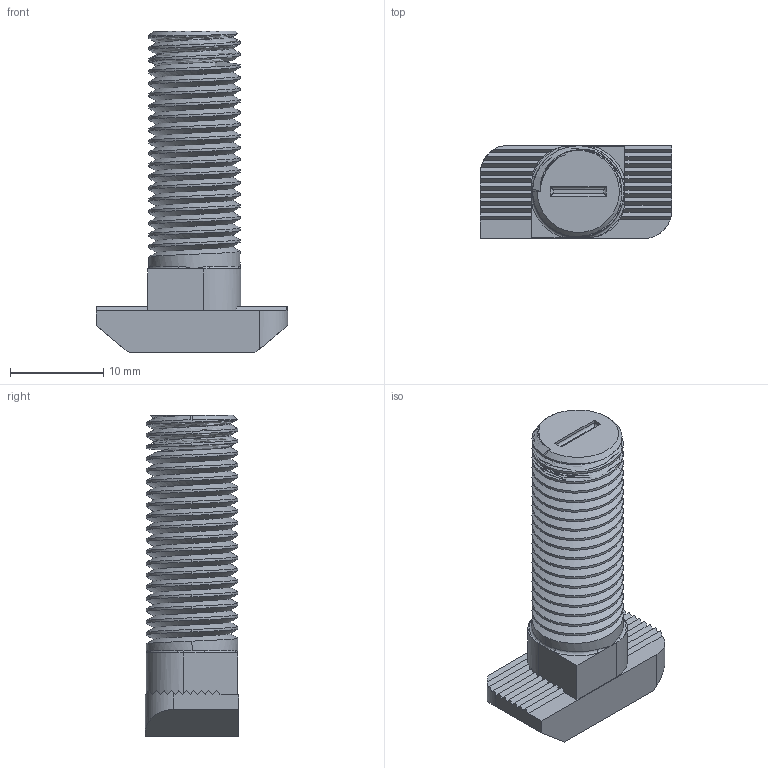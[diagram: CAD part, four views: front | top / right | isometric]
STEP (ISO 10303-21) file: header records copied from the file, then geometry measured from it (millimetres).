
FILE_DESCRIPTION (( 'STEP AP214' ), '1' );
FILE_NAME ('5068.STEP', '2017-08-09T07:57:32', ( '' ), ( '' ), 'SwSTEP 2.0', 'SolidWorks 2014', '' );
FILE_SCHEMA (( 'AUTOMOTIVE_DESIGN' ));
Length unit declared in the file: millimetre
Products named in the file (2): 5068
Bounding box: 20.5 x 10 x 34.5 mm (x, y, z)
Volume: 2934.3 mm3; surface area: 2051.8 mm2
Topology: 1 solids, 1 shells, 128 faces, 364 edges, 236 vertices
Faces by surface type: plane 63, cylinder 48, bspline 10, torus 4, cone 3
Entity records: 6850 total; most frequent: CARTESIAN_POINT 3899, ORIENTED_EDGE 718, DIRECTION 493, EDGE_CURVE 359, VERTEX_POINT 234, VECTOR 195, LINE 195, AXIS2_PLACEMENT_3D 149
